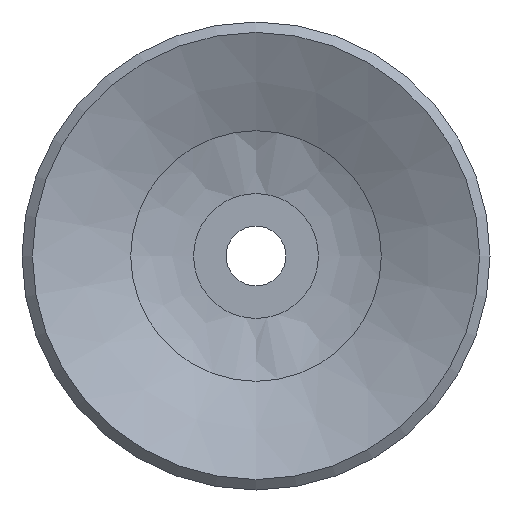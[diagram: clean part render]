
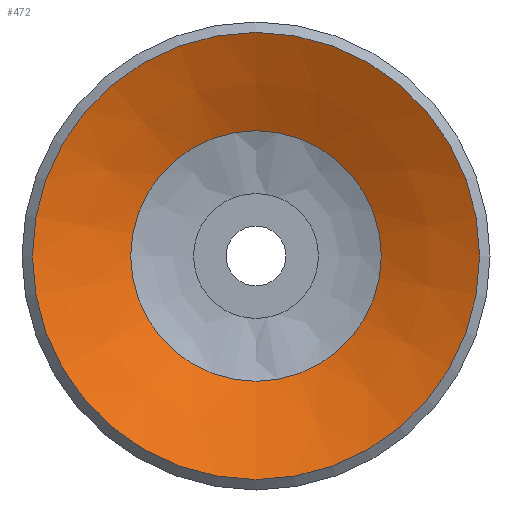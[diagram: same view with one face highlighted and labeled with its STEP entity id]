
A CAD part, front view. The second image highlights one B-rep face of the part: STEP entity #472.
In plain terms, the highlighted conical face has half-angle 65.056 degrees and reference radius 3.2 mm.
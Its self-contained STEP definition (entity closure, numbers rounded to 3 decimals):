
#472=ADVANCED_FACE('',(#674,#675),#676,.F.);
#674=FACE_BOUND('',#905,.T.);
#675=FACE_OUTER_BOUND('',#906,.T.);
#676=CONICAL_SURFACE('',#907,3.2,1.135);
#905=EDGE_LOOP('',(#1469));
#906=EDGE_LOOP('',(#1470));
#907=AXIS2_PLACEMENT_3D('',#1471,#1472,#1473);
#1469=ORIENTED_EDGE('',*,*,#1674,.T.);
#1470=ORIENTED_EDGE('',*,*,#1675,.T.);
#1471=CARTESIAN_POINT('',(0.0,7.896,0.0));
#1472=DIRECTION('',(-0.0,-1.0,0.));
#1473=DIRECTION('',(0.0,0.,-1.0));
#1674=EDGE_CURVE('',#1912,#1912,#1913,.T.);
#1675=EDGE_CURVE('',#1914,#1914,#1915,.T.);
#1912=VERTEX_POINT('',#2472);
#1913=CIRCLE('',#2473,4.203);
#1914=VERTEX_POINT('',#2474);
#1915=CIRCLE('',#2475,7.5);
#2472=CARTESIAN_POINT('',(0.0,7.43,-4.203));
#2473=AXIS2_PLACEMENT_3D('',#2707,#2708,#2709);
#2474=CARTESIAN_POINT('',(0.0,5.896,-7.5));
#2475=AXIS2_PLACEMENT_3D('',#2710,#2711,#2712);
#2707=CARTESIAN_POINT('',(0.0,7.43,0.0));
#2708=DIRECTION('',(0.0,1.0,0.));
#2709=DIRECTION('',(0.0,0.,-1.0));
#2710=CARTESIAN_POINT('',(0.0,5.896,0.0));
#2711=DIRECTION('',(0.0,-1.0,0.));
#2712=DIRECTION('',(0.0,0.,-1.0));
